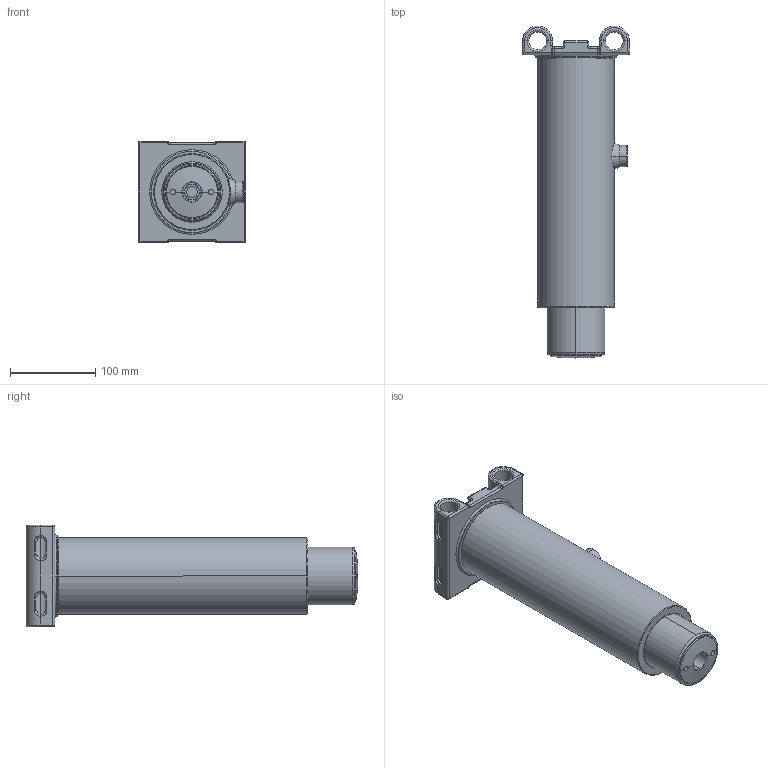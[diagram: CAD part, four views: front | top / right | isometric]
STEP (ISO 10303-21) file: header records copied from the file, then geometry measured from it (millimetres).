
FILE_DESCRIPTION (( 'STEP AP203' ), '1' );
FILE_NAME ('101.BZ1NUR150.STEP', '2023-10-06T08:04:42', ( '' ), ( '' ), 'SwSTEP 2.0', 'SolidWorks 2021', '' );
FILE_SCHEMA (( 'CONFIG_CONTROL_DESIGN' ));
Length unit declared in the file: millimetre
Products named in the file (1): 101.BZ1NUR150
Bounding box: 126 x 389.26 x 119 mm (x, y, z)
Surface area: 218169.7 mm2 (no closed solid volume)
Topology: 0 solids, 10 shells, 252 faces, 641 edges, 370 vertices
Faces by surface type: cylinder 108, plane 40, torus 32, bspline 28, cone 24, sphere 20
Entity records: 10605 total; most frequent: CARTESIAN_POINT 4714, DIRECTION 1271, ORIENTED_EDGE 1190, EDGE_CURVE 625, AXIS2_PLACEMENT_3D 525, VERTEX_POINT 370, CIRCLE 300, EDGE_LOOP 263
